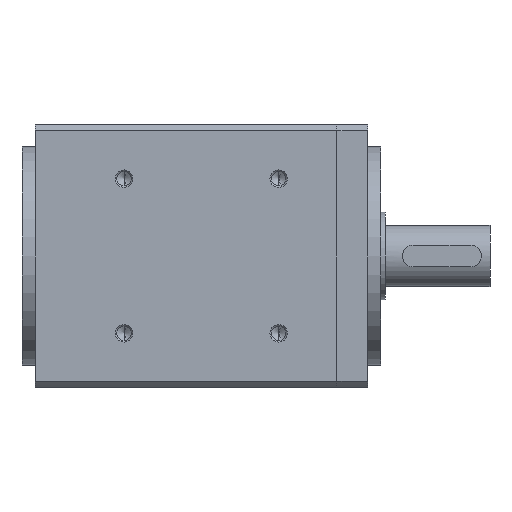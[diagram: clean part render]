
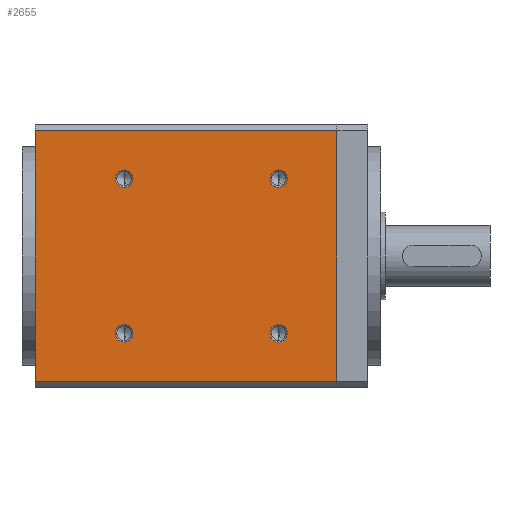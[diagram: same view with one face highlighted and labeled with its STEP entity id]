
A CAD part, left-side view. The second image highlights one B-rep face of the part: STEP entity #2655.
In plain terms, the highlighted planar face has unit normal (-1, 0, 0).
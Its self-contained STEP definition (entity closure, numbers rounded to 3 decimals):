
#171 = CARTESIAN_POINT ( 'NONE',  ( -30., -14.178, 15.678 ) ) ;
#215 = DIRECTION ( 'NONE',  ( 0., 0., 1. ) ) ;
#216 = CARTESIAN_POINT ( 'NONE',  ( -30., -14.178, -17.678 ) ) ;
#217 = DIRECTION ( 'NONE',  ( -1., 0., 0. ) ) ;
#447 = CARTESIAN_POINT ( 'NONE',  ( -30., -27.5, -28.675 ) ) ;
#448 = CARTESIAN_POINT ( 'NONE',  ( -30., 41.5, -28.675 ) ) ;
#449 = CARTESIAN_POINT ( 'NONE',  ( -30., -27.5, 28.675 ) ) ;
#450 = CARTESIAN_POINT ( 'NONE',  ( -30., 41.5, 28.675 ) ) ;
#482 = CARTESIAN_POINT ( 'NONE',  ( -30., 21.178, -19.678 ) ) ;
#521 = CARTESIAN_POINT ( 'NONE',  ( -30., 21.178, 15.678 ) ) ;
#557 = CARTESIAN_POINT ( 'NONE',  ( -30., 21.178, 19.678 ) ) ;
#561 = CARTESIAN_POINT ( 'NONE',  ( -30., 21.178, -15.678 ) ) ;
#573 = CARTESIAN_POINT ( 'NONE',  ( -30., -14.178, 19.678 ) ) ;
#731 = EDGE_LOOP ( 'NONE', ( #4312, #4311, #4310, #4309 ) ) ;
#733 = EDGE_LOOP ( 'NONE', ( #4320, #4319 ) ) ;
#739 = EDGE_LOOP ( 'NONE', ( #4318, #4317 ) ) ;
#744 = EDGE_LOOP ( 'NONE', ( #4316, #4315 ) ) ;
#748 = EDGE_LOOP ( 'NONE', ( #4314, #4313 ) ) ;
#1280 = CIRCLE ( 'NONE', #4886, 2. ) ;
#1295 = CIRCLE ( 'NONE', #4889, 2. ) ;
#1469 = FACE_BOUND ( 'NONE', #733, .T. ) ;
#1470 = FACE_BOUND ( 'NONE', #739, .T. ) ;
#1471 = FACE_BOUND ( 'NONE', #744, .T. ) ;
#1472 = FACE_BOUND ( 'NONE', #748, .T. ) ;
#1473 = FACE_OUTER_BOUND ( 'NONE', #731, .T. ) ;
#1767 = EDGE_CURVE ( 'NONE', #5810, #5776, #5483, .T. ) ;
#1776 = EDGE_CURVE ( 'NONE', #3763, #3771, #5498, .T. ) ;
#1931 = PLANE ( 'NONE',  #5829 ) ;
#1932 = CARTESIAN_POINT ( 'NONE',  ( -30., -27.5, -28.675 ) ) ;
#1933 = DIRECTION ( 'NONE',  ( -1., 0., 0. ) ) ;
#1934 = DIRECTION ( 'NONE',  ( 0., 0., 1. ) ) ;
#2292 = EDGE_CURVE ( 'NONE', #5724, #5760, #1280, .T. ) ;
#2301 = EDGE_CURVE ( 'NONE', #5685, #5764, #1295, .T. ) ;
#2655 = ADVANCED_FACE ( 'NONE', ( #1469, #1470, #1471, #1472, #1473 ), #1931, .T. ) ;
#2908 = CARTESIAN_POINT ( 'NONE',  ( -30., -14.178, -19.678 ) ) ;
#2916 = CARTESIAN_POINT ( 'NONE',  ( -30., -14.178, -15.678 ) ) ;
#3040 = CARTESIAN_POINT ( 'NONE',  ( -30., -27.5, 28.675 ) ) ;
#3041 = DIRECTION ( 'NONE',  ( 0., 1., 0. ) ) ;
#3045 = CARTESIAN_POINT ( 'NONE',  ( -30., 21.178, -17.678 ) ) ;
#3046 = DIRECTION ( 'NONE',  ( -1., 0., 0. ) ) ;
#3047 = DIRECTION ( 'NONE',  ( 0., 0., 1. ) ) ;
#3048 = CARTESIAN_POINT ( 'NONE',  ( -30., 21.178, 17.678 ) ) ;
#3049 = DIRECTION ( 'NONE',  ( -1., 0., 0. ) ) ;
#3050 = DIRECTION ( 'NONE',  ( 0., 0., 1. ) ) ;
#3051 = CARTESIAN_POINT ( 'NONE',  ( -30., -14.178, 17.678 ) ) ;
#3052 = DIRECTION ( 'NONE',  ( -1., 0., 0. ) ) ;
#3053 = DIRECTION ( 'NONE',  ( 0., 0., 1. ) ) ;
#3054 = CARTESIAN_POINT ( 'NONE',  ( -30., -14.178, -17.678 ) ) ;
#3055 = DIRECTION ( 'NONE',  ( -1., 0., 0. ) ) ;
#3056 = DIRECTION ( 'NONE',  ( 0., 0., 1. ) ) ;
#3057 = CARTESIAN_POINT ( 'NONE',  ( -30., 41.5, -28.675 ) ) ;
#3058 = DIRECTION ( 'NONE',  ( 0., 0., -1. ) ) ;
#3059 = CARTESIAN_POINT ( 'NONE',  ( -30., -27.5, -28.675 ) ) ;
#3060 = DIRECTION ( 'NONE',  ( 0., 1., 0. ) ) ;
#3061 = CARTESIAN_POINT ( 'NONE',  ( -30., -27.5, -28.675 ) ) ;
#3062 = DIRECTION ( 'NONE',  ( 0., 0., 1. ) ) ;
#3458 = LINE ( 'NONE', #3040, #3460 ) ;
#3460 = VECTOR ( 'NONE', #3041, 1000. ) ;
#3462 = CIRCLE ( 'NONE', #6024, 2. ) ;
#3463 = CIRCLE ( 'NONE', #6025, 2. ) ;
#3464 = CIRCLE ( 'NONE', #6026, 2. ) ;
#3465 = LINE ( 'NONE', #3057, #3467 ) ;
#3466 = CIRCLE ( 'NONE', #6027, 2. ) ;
#3467 = VECTOR ( 'NONE', #3058, 1000. ) ;
#3468 = LINE ( 'NONE', #3059, #3469 ) ;
#3469 = VECTOR ( 'NONE', #3060, 1000. ) ;
#3470 = LINE ( 'NONE', #3061, #3471 ) ;
#3471 = VECTOR ( 'NONE', #3062, 1000. ) ;
#3656 = DIRECTION ( 'NONE',  ( 0., 0., 1. ) ) ;
#3662 = DIRECTION ( 'NONE',  ( -1., 0., 0. ) ) ;
#3710 = CARTESIAN_POINT ( 'NONE',  ( -30., -14.178, 17.678 ) ) ;
#3763 = VERTEX_POINT ( 'NONE', #2908 ) ;
#3771 = VERTEX_POINT ( 'NONE', #2916 ) ;
#3888 = CARTESIAN_POINT ( 'NONE',  ( -30., 21.178, 17.678 ) ) ;
#3889 = DIRECTION ( 'NONE',  ( -1., 0., 0. ) ) ;
#3890 = DIRECTION ( 'NONE',  ( 0., 0., 1. ) ) ;
#3909 = CARTESIAN_POINT ( 'NONE',  ( -30., 21.178, -17.678 ) ) ;
#3910 = DIRECTION ( 'NONE',  ( -1., 0., 0. ) ) ;
#3911 = DIRECTION ( 'NONE',  ( 0., 0., 1. ) ) ;
#4309 = ORIENTED_EDGE ( 'NONE', *, *, #4685, .T. ) ;
#4310 = ORIENTED_EDGE ( 'NONE', *, *, #4684, .F. ) ;
#4311 = ORIENTED_EDGE ( 'NONE', *, *, #4683, .T. ) ;
#4312 = ORIENTED_EDGE ( 'NONE', *, *, #4677, .T. ) ;
#4313 = ORIENTED_EDGE ( 'NONE', *, *, #1776, .F. ) ;
#4314 = ORIENTED_EDGE ( 'NONE', *, *, #4682, .F. ) ;
#4315 = ORIENTED_EDGE ( 'NONE', *, *, #1767, .F. ) ;
#4316 = ORIENTED_EDGE ( 'NONE', *, *, #4681, .F. ) ;
#4317 = ORIENTED_EDGE ( 'NONE', *, *, #2292, .F. ) ;
#4318 = ORIENTED_EDGE ( 'NONE', *, *, #4680, .F. ) ;
#4319 = ORIENTED_EDGE ( 'NONE', *, *, #2301, .F. ) ;
#4320 = ORIENTED_EDGE ( 'NONE', *, *, #4679, .F. ) ;
#4677 = EDGE_CURVE ( 'NONE', #5006, #5007, #3458, .T. ) ;
#4679 = EDGE_CURVE ( 'NONE', #5764, #5685, #3462, .T. ) ;
#4680 = EDGE_CURVE ( 'NONE', #5760, #5724, #3463, .T. ) ;
#4681 = EDGE_CURVE ( 'NONE', #5776, #5810, #3464, .T. ) ;
#4682 = EDGE_CURVE ( 'NONE', #3771, #3763, #3466, .T. ) ;
#4683 = EDGE_CURVE ( 'NONE', #5007, #5005, #3465, .T. ) ;
#4684 = EDGE_CURVE ( 'NONE', #5004, #5005, #3468, .T. ) ;
#4685 = EDGE_CURVE ( 'NONE', #5004, #5006, #3470, .T. ) ;
#4799 = AXIS2_PLACEMENT_3D ( 'NONE', #3710, #3662, #3656 ) ;
#4802 = AXIS2_PLACEMENT_3D ( 'NONE', #216, #217, #215 ) ;
#4886 = AXIS2_PLACEMENT_3D ( 'NONE', #3888, #3889, #3890 ) ;
#4889 = AXIS2_PLACEMENT_3D ( 'NONE', #3909, #3910, #3911 ) ;
#5004 = VERTEX_POINT ( 'NONE', #447 ) ;
#5005 = VERTEX_POINT ( 'NONE', #448 ) ;
#5006 = VERTEX_POINT ( 'NONE', #449 ) ;
#5007 = VERTEX_POINT ( 'NONE', #450 ) ;
#5483 = CIRCLE ( 'NONE', #4799, 2. ) ;
#5498 = CIRCLE ( 'NONE', #4802, 2. ) ;
#5685 = VERTEX_POINT ( 'NONE', #482 ) ;
#5724 = VERTEX_POINT ( 'NONE', #521 ) ;
#5760 = VERTEX_POINT ( 'NONE', #557 ) ;
#5764 = VERTEX_POINT ( 'NONE', #561 ) ;
#5776 = VERTEX_POINT ( 'NONE', #573 ) ;
#5810 = VERTEX_POINT ( 'NONE', #171 ) ;
#5829 = AXIS2_PLACEMENT_3D ( 'NONE', #1932, #1933, #1934 ) ;
#6024 = AXIS2_PLACEMENT_3D ( 'NONE', #3045, #3046, #3047 ) ;
#6025 = AXIS2_PLACEMENT_3D ( 'NONE', #3048, #3049, #3050 ) ;
#6026 = AXIS2_PLACEMENT_3D ( 'NONE', #3051, #3052, #3053 ) ;
#6027 = AXIS2_PLACEMENT_3D ( 'NONE', #3054, #3055, #3056 ) ;
